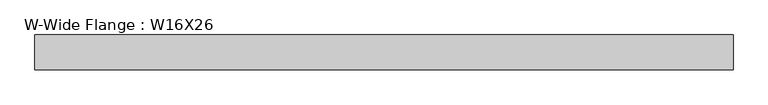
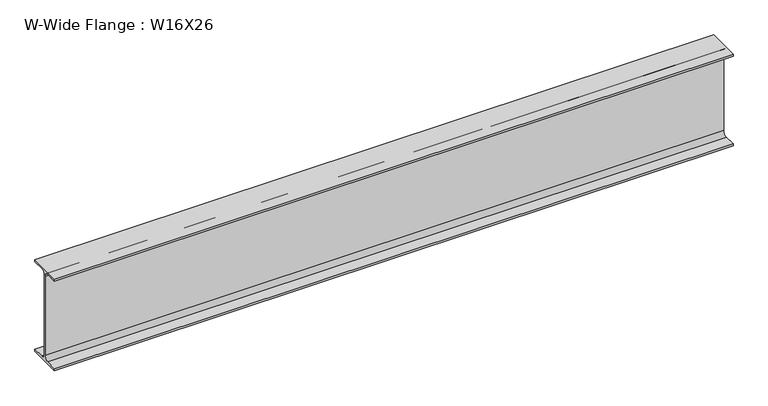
"""IFC4 building model written with IfcOpenShell, lengths in millimetres: beam geometry, W-Wide Flange : W16X26."""

from ifc_helpers import new_model, si_unit, point, frame, frame_2d, origin, place, context, project, spatial, polyline, circle_curve, trimmed, segment, composite_curve, outline, extrude, source, transform, mapped, element, save


def w_wide_flange_w16x26_bb316ae0(model_context):
    return source(origin(), model_context, "Body", "SweptSolid", [
        extrude(outline(composite_curve([segment(polyline([(69.85, -190.5496094), (69.85, -199.2808594), (-69.85, -199.2808594), (-69.85, -190.5496094), (-21.43125, -190.5496094)]), True, "CONTINUOUS"), segment(trimmed(circle_curve(frame_2d((-21.43125, -172.2933594)), 18.25625), [point((-21.43125, -190.5496094))], [point((-3.175, -172.2933594))], True, "CARTESIAN"), True, "CONTINUOUS"), segment(polyline([(-3.175, -172.2933594), (-3.175, 172.2933594)]), True, "CONTINUOUS"), segment(trimmed(circle_curve(frame_2d((-21.43125, 172.2933594)), 18.25625), [point((-3.175, 172.2933594))], [point((-21.43125, 190.5496094))], True, "CARTESIAN"), True, "CONTINUOUS"), segment(polyline([(-21.43125, 190.5496094), (-69.85, 190.5496094), (-69.85, 199.2808594), (69.85, 199.2808594), (69.85, 190.5496094), (21.43125, 190.5496094)]), True, "CONTINUOUS"), segment(trimmed(circle_curve(frame_2d((21.43125, 172.2933594)), 18.25625), [point((21.43125, 190.5496094))], [point((3.175, 172.2933594))], True, "CARTESIAN"), True, "CONTINUOUS"), segment(polyline([(3.175, 172.2933594), (3.175, -172.2933594)]), True, "CONTINUOUS"), segment(trimmed(circle_curve(frame_2d((21.43125, -172.2933594)), 18.25625), [point((3.175, -172.2933594))], [point((21.43125, -190.5496094))], True, "CARTESIAN"), True, "CONTINUOUS"), segment(polyline([(21.43125, -190.5496094), (69.85, -190.5496094)]), True, "CONTINUOUS")], self_intersect=False)), frame((-1373.9129411, 0.0, 0.0), z_axis=(1.0, 0.0, 0.0), x_axis=(0.0, 1.0, 0.0)), (0.0, 0.0, 1.0), 2793.9626009),
    ])


if __name__ == "__main__":
    model = new_model("IFC4")
    model_context = context("Model", 3, world=origin())
    ifc_project = project(units=[si_unit("LENGTHUNIT", "METRE", prefix="MILLI")], contexts=[model_context])
    site = spatial("IfcSite", under=ifc_project)
    building = spatial("IfcBuilding", under=site)
    placement = place(None, origin())
    w_wide_flange_w16x26_shape = w_wide_flange_w16x26_bb316ae0(model_context)
    element("IfcBeam", 1, ObjectType="W-Wide Flange : W16X26", at=placement, inside=building, context=model_context, shape_type="MappedRepresentation", body=[
        mapped(w_wide_flange_w16x26_shape, transform((0.0, 0.0, 0.0), x_axis=(1.0, 0.0, 0.0), y_axis=(0.0, 1.0, 0.0), z_axis=(0.0, 0.0, 1.0))),
    ])
    save(model, "model.ifc")
